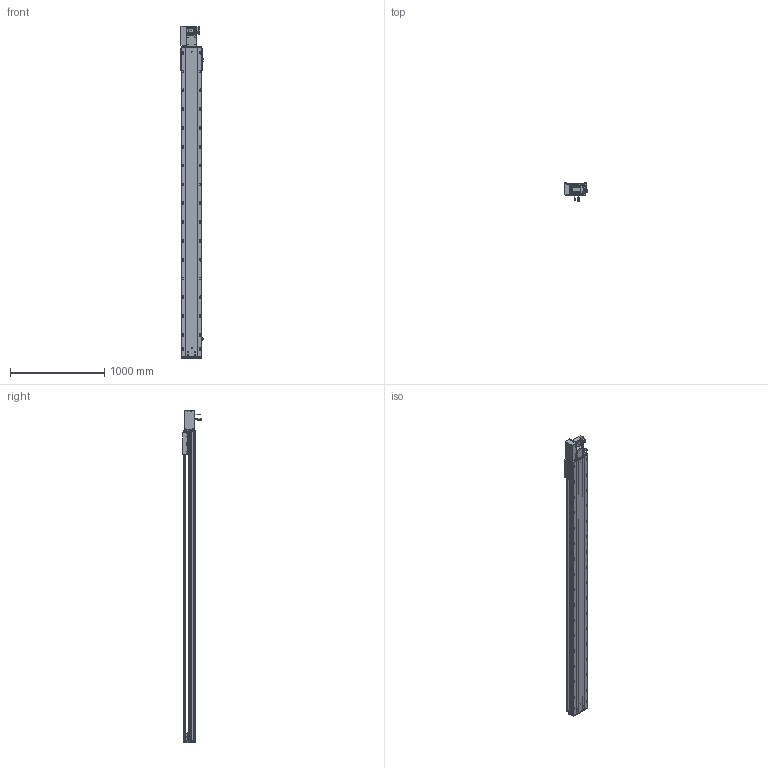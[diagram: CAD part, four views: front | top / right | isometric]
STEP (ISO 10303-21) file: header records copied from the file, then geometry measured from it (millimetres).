
FILE_DESCRIPTION (( 'STEP AP203' ), '1' );
FILE_NAME ('RY220-T-300-LK.SLDASM_2950.step', '2022-07-25T08:16:34', ( '' ), ( '' ), 'SwSTEP 2.0', 'SolidWorks 2016', '' );
FILE_SCHEMA (( 'CONFIG_CONTROL_DESIGN' ));
Length unit declared in the file: millimetre
Products named in the file (14): RY220-T-湍謫欶(鍼踢); 怢湛750W_ECMA-CX0807ES; RY220-T-蛌殏萇儂假蚾啣(750W); RY220-俋离672覜茼んえ; RY220圉猾敕々湍臏賑輸; RY220-T-300-奻裔啣_2950; RY220-T菁釱-300_2950; RY220翋肮祭謫釱; 滅袉蝶18-15; RY220翋肮祭謫裔啣; RY220-T-300-LK.SLDASM_2950; 110A-T-肮祭謫釱傷裔; 覜茼ん672; RY220-同步轮副支撑座6304×2
Assembly tree (18 placements, depth 2):
  RY220-T-300-LK.SLDASM_2950
    RY220-T菁釱-300_2950
    RY220翋肮祭謫釱
    覜茼ん672  x3
    RY220圉猾敕々湍臏賑輸
    RY220-T-300-奻裔啣_2950
    RY220-俋离672覜茼んえ
    滅袉蝶18-15  x3
    RY220翋肮祭謫裔啣  x2
    110A-T-肮祭謫釱傷裔
    怢湛750W_ECMA-CX0807ES
    RY220-T-湍謫欶(鍼踢)
    RY220-T-蛌殏萇儂假蚾啣(750W)
    RY220-同步轮副支撑座6304×2
Bounding box: 239.7 x 198.77 x 3529 mm (x, y, z)
Volume: 24880005.2 mm3; surface area: 7693573.9 mm2
Topology: 19 solids, 19 shells, 3020 faces, 8355 edges, 5230 vertices
Faces by surface type: cylinder 1492, plane 1069, cone 377, bspline 56, sphere 16, torus 10
Entity records: 100723 total; most frequent: CARTESIAN_POINT 28401, ORIENTED_EDGE 14938, DIRECTION 14436, EDGE_CURVE 7469, AXIS2_PLACEMENT_3D 5214, VERTEX_POINT 4854, LINE 4008, VECTOR 4008
